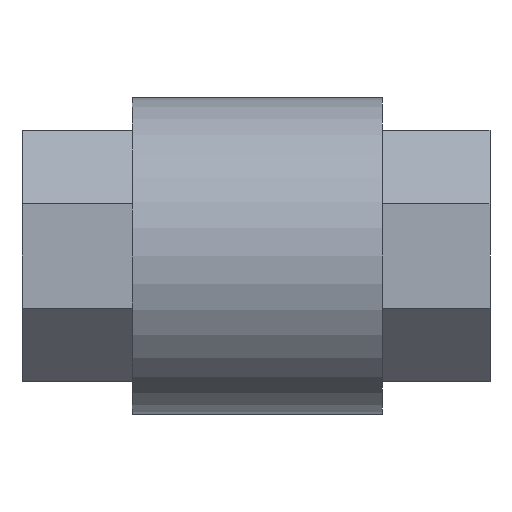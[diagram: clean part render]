
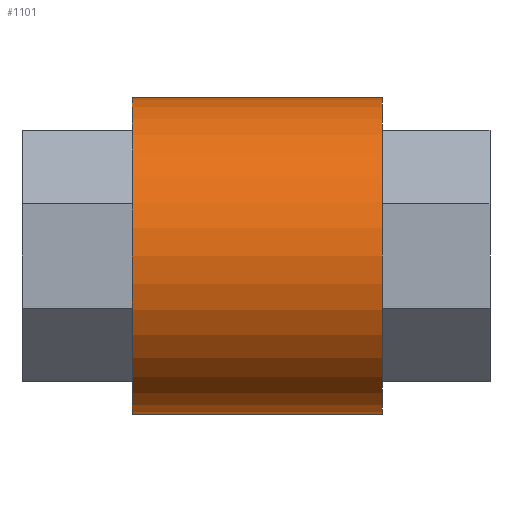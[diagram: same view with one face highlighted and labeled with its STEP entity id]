
A CAD part, front view. The second image highlights one B-rep face of the part: STEP entity #1101.
In plain terms, the highlighted cylindrical face has radius 0.64 mm (diameter 1.28 mm), a full revolution.
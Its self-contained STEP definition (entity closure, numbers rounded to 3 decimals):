
#289 = PLANE('',#290);
#290 = AXIS2_PLACEMENT_3D('',#291,#292,#293);
#291 = CARTESIAN_POINT('',(1.455,0.,0.));
#292 = DIRECTION('',(1.,0.,0.));
#293 = DIRECTION('',(0.,0.,-1.));
#842 = EDGE_CURVE('',#843,#843,#845,.T.);
#843 = VERTEX_POINT('',#844);
#844 = CARTESIAN_POINT('',(0.445,0.64,0.));
#845 = SURFACE_CURVE('',#846,(#851,#863),.PCURVE_S1.);
#846 = CIRCLE('',#847,0.64);
#847 = AXIS2_PLACEMENT_3D('',#848,#849,#850);
#848 = CARTESIAN_POINT('',(0.445,0.,0.));
#849 = DIRECTION('',(1.,0.,0.));
#850 = DIRECTION('',(0.,1.,0.));
#851 = PCURVE('',#852,#857);
#852 = PLANE('',#853);
#853 = AXIS2_PLACEMENT_3D('',#854,#855,#856);
#854 = CARTESIAN_POINT('',(0.445,0.,0.));
#855 = DIRECTION('',(1.,0.,0.));
#856 = DIRECTION('',(0.,0.,-1.));
#857 = DEFINITIONAL_REPRESENTATION('',(#858),#862);
#858 = CIRCLE('',#859,0.64);
#859 = AXIS2_PLACEMENT_2D('',#860,#861);
#860 = CARTESIAN_POINT('',(0.,0.));
#861 = DIRECTION('',(0.,1.));
#862 = ( GEOMETRIC_REPRESENTATION_CONTEXT(2) 
PARAMETRIC_REPRESENTATION_CONTEXT() REPRESENTATION_CONTEXT('2D SPACE',''
  ) );
#863 = PCURVE('',#864,#869);
#864 = CYLINDRICAL_SURFACE('',#865,0.64);
#865 = AXIS2_PLACEMENT_3D('',#866,#867,#868);
#866 = CARTESIAN_POINT('',(0.445,0.,0.));
#867 = DIRECTION('',(1.,0.,0.));
#868 = DIRECTION('',(-0.,1.,0.));
#869 = DEFINITIONAL_REPRESENTATION('',(#870),#874);
#870 = LINE('',#871,#872);
#871 = CARTESIAN_POINT('',(0.,0.));
#872 = VECTOR('',#873,1.);
#873 = DIRECTION('',(1.,0.));
#874 = ( GEOMETRIC_REPRESENTATION_CONTEXT(2) 
PARAMETRIC_REPRESENTATION_CONTEXT() REPRESENTATION_CONTEXT('2D SPACE',''
  ) );
#1101 = ADVANCED_FACE('',(#1102),#864,.T.);
#1102 = FACE_BOUND('',#1103,.T.);
#1103 = EDGE_LOOP('',(#1104,#1132,#1152,#1153));
#1104 = ORIENTED_EDGE('',*,*,#1105,.T.);
#1105 = EDGE_CURVE('',#1106,#1106,#1108,.T.);
#1106 = VERTEX_POINT('',#1107);
#1107 = CARTESIAN_POINT('',(1.455,0.64,0.));
#1108 = SURFACE_CURVE('',#1109,(#1114,#1121),.PCURVE_S1.);
#1109 = CIRCLE('',#1110,0.64);
#1110 = AXIS2_PLACEMENT_3D('',#1111,#1112,#1113);
#1111 = CARTESIAN_POINT('',(1.455,0.,0.));
#1112 = DIRECTION('',(-1.,0.,0.));
#1113 = DIRECTION('',(0.,1.,0.));
#1114 = PCURVE('',#864,#1115);
#1115 = DEFINITIONAL_REPRESENTATION('',(#1116),#1120);
#1116 = LINE('',#1117,#1118);
#1117 = CARTESIAN_POINT('',(6.283,1.01));
#1118 = VECTOR('',#1119,1.);
#1119 = DIRECTION('',(-1.,0.));
#1120 = ( GEOMETRIC_REPRESENTATION_CONTEXT(2) 
PARAMETRIC_REPRESENTATION_CONTEXT() REPRESENTATION_CONTEXT('2D SPACE',''
  ) );
#1121 = PCURVE('',#289,#1122);
#1122 = DEFINITIONAL_REPRESENTATION('',(#1123),#1131);
#1123 = ( BOUNDED_CURVE() B_SPLINE_CURVE(2,(#1124,#1125,#1126,#1127,
#1128,#1129,#1130),.UNSPECIFIED.,.T.,.F.) B_SPLINE_CURVE_WITH_KNOTS((1,2
    ,2,2,2,1),(-2.094,0.,2.094,4.189,
6.283,8.378),.UNSPECIFIED.) CURVE() 
GEOMETRIC_REPRESENTATION_ITEM() RATIONAL_B_SPLINE_CURVE((1.,0.5,1.,0.5,
1.,0.5,1.)) REPRESENTATION_ITEM('') );
#1124 = CARTESIAN_POINT('',(0.,0.64));
#1125 = CARTESIAN_POINT('',(1.109,0.64));
#1126 = CARTESIAN_POINT('',(0.554,-0.32));
#1127 = CARTESIAN_POINT('',(0.,-1.28));
#1128 = CARTESIAN_POINT('',(-0.554,-0.32));
#1129 = CARTESIAN_POINT('',(-1.109,0.64));
#1130 = CARTESIAN_POINT('',(0.,0.64));
#1131 = ( GEOMETRIC_REPRESENTATION_CONTEXT(2) 
PARAMETRIC_REPRESENTATION_CONTEXT() REPRESENTATION_CONTEXT('2D SPACE',''
  ) );
#1132 = ORIENTED_EDGE('',*,*,#1133,.F.);
#1133 = EDGE_CURVE('',#843,#1106,#1134,.T.);
#1134 = SEAM_CURVE('',#1135,(#1138,#1145),.PCURVE_S1.);
#1135 = B_SPLINE_CURVE_WITH_KNOTS('',1,(#1136,#1137),.UNSPECIFIED.,.F.,
  .F.,(2,2),(0.,1.01),.PIECEWISE_BEZIER_KNOTS.);
#1136 = CARTESIAN_POINT('',(0.445,0.64,0.));
#1137 = CARTESIAN_POINT('',(1.455,0.64,0.));
#1138 = PCURVE('',#864,#1139);
#1139 = DEFINITIONAL_REPRESENTATION('',(#1140),#1144);
#1140 = LINE('',#1141,#1142);
#1141 = CARTESIAN_POINT('',(0.,0.));
#1142 = VECTOR('',#1143,1.);
#1143 = DIRECTION('',(0.,1.));
#1144 = ( GEOMETRIC_REPRESENTATION_CONTEXT(2) 
PARAMETRIC_REPRESENTATION_CONTEXT() REPRESENTATION_CONTEXT('2D SPACE',''
  ) );
#1145 = PCURVE('',#864,#1146);
#1146 = DEFINITIONAL_REPRESENTATION('',(#1147),#1151);
#1147 = LINE('',#1148,#1149);
#1148 = CARTESIAN_POINT('',(6.283,0.));
#1149 = VECTOR('',#1150,1.);
#1150 = DIRECTION('',(0.,1.));
#1151 = ( GEOMETRIC_REPRESENTATION_CONTEXT(2) 
PARAMETRIC_REPRESENTATION_CONTEXT() REPRESENTATION_CONTEXT('2D SPACE',''
  ) );
#1152 = ORIENTED_EDGE('',*,*,#842,.T.);
#1153 = ORIENTED_EDGE('',*,*,#1133,.T.);
